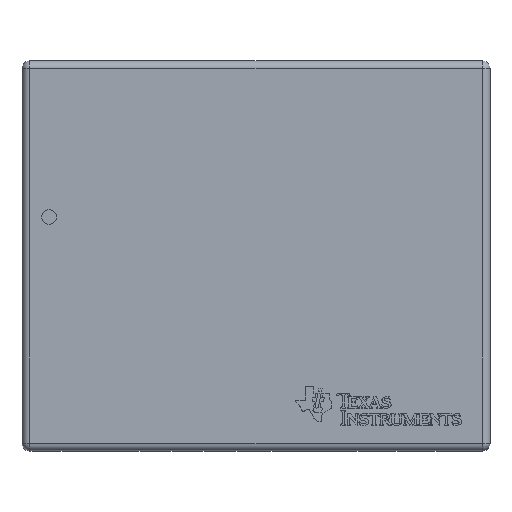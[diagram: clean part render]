
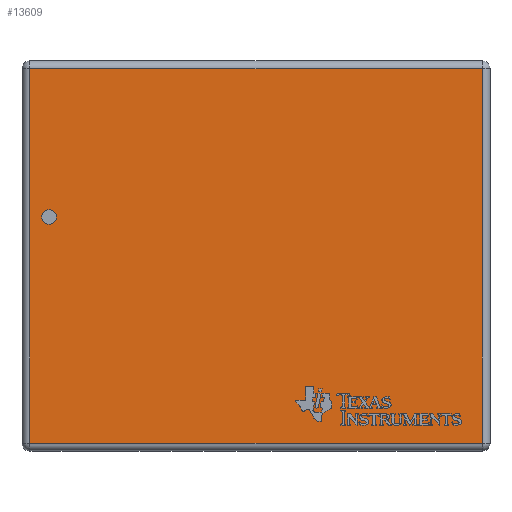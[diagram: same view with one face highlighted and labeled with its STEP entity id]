
A CAD part, top view. The second image highlights one B-rep face of the part: STEP entity #13609.
In plain terms, the highlighted planar face has unit normal (0, 0, 1).
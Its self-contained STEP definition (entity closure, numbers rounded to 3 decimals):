
#1012=FACE_OUTER_BOUND('',#1777,.T.);
#1777=EDGE_LOOP('',(#10016,#10017,#10018,#10019));
#2868=LINE('',#19187,#4442);
#2870=LINE('',#19195,#4444);
#2872=LINE('',#19205,#4446);
#2873=LINE('',#19211,#4447);
#4442=VECTOR('',#16036,4.8);
#4444=VECTOR('',#16044,5.8);
#4446=VECTOR('',#16056,4.8);
#4447=VECTOR('',#16067,5.8);
#5912=VERTEX_POINT('',#19183);
#5913=VERTEX_POINT('',#19185);
#5914=VERTEX_POINT('',#19189);
#5917=VERTEX_POINT('',#19199);
#7427=EDGE_CURVE('',#5913,#5912,#2868,.T.);
#7431=EDGE_CURVE('',#5912,#5914,#2870,.T.);
#7436=EDGE_CURVE('',#5914,#5917,#2872,.T.);
#7440=EDGE_CURVE('',#5917,#5913,#2873,.T.);
#10016=ORIENTED_EDGE('',*,*,#7427,.F.);
#10017=ORIENTED_EDGE('',*,*,#7440,.F.);
#10018=ORIENTED_EDGE('',*,*,#7436,.F.);
#10019=ORIENTED_EDGE('',*,*,#7431,.F.);
#13032=PLANE('',#14503);
#13609=ADVANCED_FACE('',(#1012),#13032,.T.);
#14503=AXIS2_PLACEMENT_3D('',#19270,#16113,#16114);
#16036=DIRECTION('',(0.,1.,0.));
#16044=DIRECTION('',(1.,0.,0.));
#16056=DIRECTION('',(0.,-1.,0.));
#16067=DIRECTION('',(-1.,0.,0.));
#16113=DIRECTION('center_axis',(0.,0.,1.));
#16114=DIRECTION('ref_axis',(1.,0.,0.));
#19183=CARTESIAN_POINT('',(-2.9,2.4,1.5));
#19185=CARTESIAN_POINT('',(-2.9,-2.4,1.5));
#19187=CARTESIAN_POINT('',(-2.9,1.25,1.5));
#19189=CARTESIAN_POINT('',(2.9,2.4,1.5));
#19195=CARTESIAN_POINT('',(1.5,2.4,1.5));
#19199=CARTESIAN_POINT('',(2.9,-2.4,1.5));
#19205=CARTESIAN_POINT('',(2.9,-1.25,1.5));
#19211=CARTESIAN_POINT('',(-1.5,-2.4,1.5));
#19270=CARTESIAN_POINT('Origin',(0.,0.,1.5));
